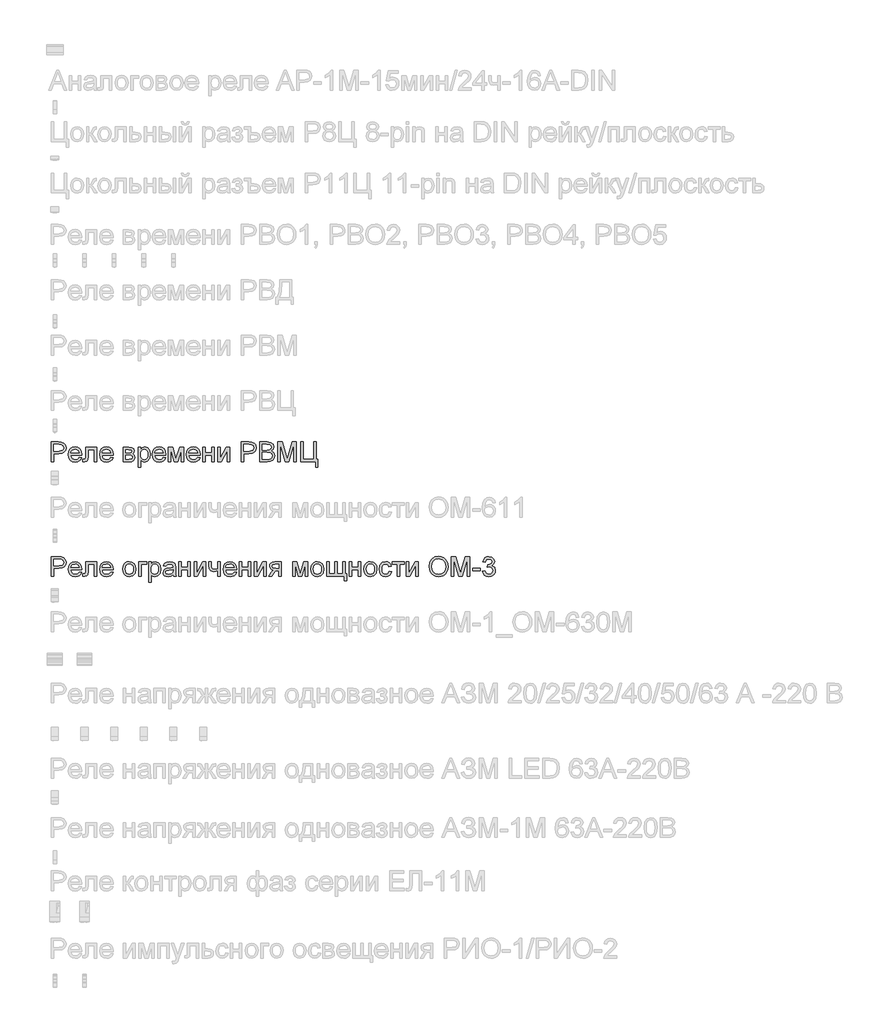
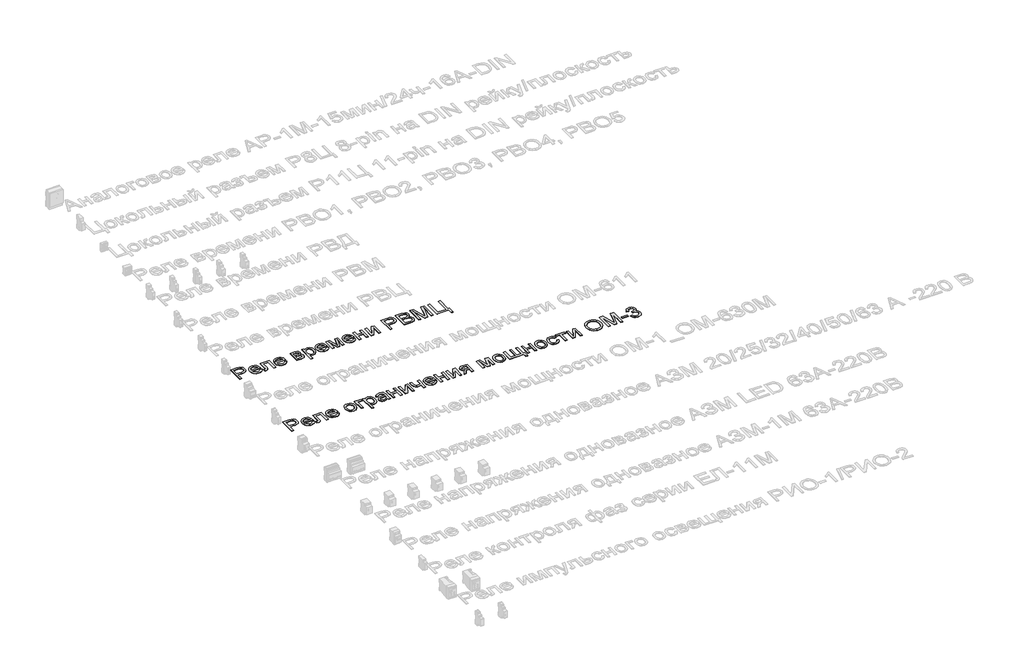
# One storey, part 16 of 34: 2 proxies.
"""IFC4 building model written with IfcOpenShell, lengths in millimetres."""

from ifc_helpers import new_model, si_unit, frame, origin, place, context, project, spatial, polyline, outline, extrude, element, save

model = new_model("IFC4")

# Units and contexts
model_context = context("Model", 3, world=origin())
ifc_project = project(units=[si_unit("LENGTHUNIT", "METRE", prefix="MILLI")], contexts=[model_context])

# Site, building, storey
site = spatial("IfcSite", under=ifc_project)
building = spatial("IfcBuilding", under=site)
storey = spatial("IfcBuildingStorey", under=building, Name="Этаж 01", Elevation=0.0)

# Proxies
placement = place(None, origin())
element("IfcBuildingElementProxy", 1, Name="Надпись на модели 1", ObjectType="Надпись на модели 1", at=placement, inside=storey, context=model_context, shape_type="SweptSolid", body=[
    extrude(outline(polyline([(-19039.0125911, 13496.235284), (-19039.0125911, 13596.6915941), (-19001.7829332, 13596.6915941), (-18986.7733478, 13595.735101), (-18974.5719283, 13591.0384742), (-18966.6624654, 13581.3263895), (-18963.6703585, 13567.6289165), (-18965.6906438, 13555.7892476), (-18971.7514996, 13545.9238788), (-18983.0853308, 13539.2652147), (-19000.9245418, 13537.04566), (-19026.4555523, 13537.04566), (-19026.4555523, 13496.235284), (-19039.0125911, 13496.235284)]), holes=[polyline([(-19026.4555523, 13549.6026988), (-19000.1887779, 13549.6026988), (-18981.6965762, 13554.2134864), (-18977.594692, 13559.7623732), (-18976.2273972, 13567.1874581), (-18979.4524961, 13577.5862559), (-18987.9260447, 13583.2761641), (-19000.4830834, 13584.1345554), (-19026.4555523, 13584.1345554), (-19026.4555523, 13549.6026988)])]), frame((0.0, 0.0, 40.0), z_axis=(0.0, 0.0, 1.0), x_axis=(1.0, 0.0, 0.0)), (0.0, 0.0, 1.0), 2.0),
    extrude(outline(polyline([(-18896.3234279, 13518.2101018), (-18884.0116438, 13516.640472), (-18888.4476875, 13507.3637143), (-18895.5263502, 13500.4291387), (-18905.0882164, 13496.1065253), (-18916.9738705, 13494.6656541), (-18931.7075445, 13497.1519233), (-18943.0444413, 13504.6107308), (-18950.2733225, 13516.5576985), (-18952.6829495, 13532.5084487), (-18950.248797, 13548.9956935), (-18942.9463394, 13561.3258717), (-18931.7627268, 13569.0146054), (-18917.6851091, 13571.5775166), (-18904.0458841, 13569.0207367), (-18893.14738, 13561.3503971), (-18886.0012722, 13549.0447444), (-18883.6192363, 13532.5820251), (-18883.6928127, 13529.1975108), (-18940.1259108, 13529.1975108), (-18937.9523413, 13519.7981258), (-18932.9031609, 13512.8880756), (-18925.6160317, 13508.6390386), (-18916.7286159, 13507.2226929), (-18904.4168318, 13509.8469178), (-18896.3234279, 13518.2101018)]), holes=[polyline([(-18940.1259108, 13541.7545495), (-18896.1762751, 13541.7545495), (-18901.2039957, 13553.1343659), (-18908.5248474, 13557.5489499), (-18917.73416, 13559.0204778), (-18933.1974665, 13554.323851), (-18938.0627059, 13548.8332123), (-18940.1259108, 13541.7545495)])]), frame((0.0, 0.0, 40.0), z_axis=(0.0, 0.0, 1.0), x_axis=(1.0, 0.0, 0.0)), (0.0, 0.0, 1.0), 2.0),
    extrude(outline(polyline([(-18864.7836782, 13570.0078868), (-18808.2770037, 13570.0078868), (-18808.2770037, 13496.3088604), (-18820.8340425, 13496.3088604), (-18820.8340425, 13557.450848), (-18852.2266394, 13557.450848), (-18852.2266394, 13522.2568038), (-18853.072768, 13506.0209451), (-18857.7203439, 13499.1660772), (-18868.7077528, 13496.235284), (-18878.9103468, 13496.8729461), (-18878.9103468, 13508.7923228), (-18873.294015, 13508.7923228), (-18867.6163695, 13509.564875), (-18865.3477639, 13512.0174216), (-18864.7836782, 13522.9680423), (-18864.7836782, 13570.0078868)])), frame((0.0, 0.0, 40.0), z_axis=(0.0, 0.0, 1.0), x_axis=(1.0, 0.0, 0.0)), (0.0, 0.0, 1.0), 2.0),
    extrude(outline(polyline([(-18737.7908134, 13518.2101018), (-18725.4790293, 13516.640472), (-18729.915073, 13507.3637143), (-18736.9937358, 13500.4291387), (-18746.555602, 13496.1065253), (-18758.4412561, 13494.6656541), (-18773.17493, 13497.1519233), (-18784.5118268, 13504.6107308), (-18791.740708, 13516.5576985), (-18794.1503351, 13532.5084487), (-18791.7161826, 13548.9956935), (-18784.4137249, 13561.3258717), (-18773.2301123, 13569.0146054), (-18759.1524946, 13571.5775166), (-18745.5132696, 13569.0207367), (-18734.6147655, 13561.3503971), (-18727.4686578, 13549.0447444), (-18725.0866219, 13532.5820251), (-18725.1601983, 13529.1975108), (-18781.5932963, 13529.1975108), (-18779.4197269, 13519.7981258), (-18774.3705465, 13512.8880756), (-18767.0834173, 13508.6390386), (-18758.1960014, 13507.2226929), (-18745.8842173, 13509.8469178), (-18737.7908134, 13518.2101018)]), holes=[polyline([(-18781.5932963, 13541.7545495), (-18737.6436606, 13541.7545495), (-18742.6713812, 13553.1343659), (-18749.9922329, 13557.5489499), (-18759.2015455, 13559.0204778), (-18774.6648521, 13554.323851), (-18779.5300915, 13548.8332123), (-18781.5932963, 13541.7545495)])]), frame((0.0, 0.0, 40.0), z_axis=(0.0, 0.0, 1.0), x_axis=(1.0, 0.0, 0.0)), (0.0, 0.0, 1.0), 2.0),
    extrude(outline(polyline([(-18673.2888369, 13570.0078868), (-18645.6241109, 13570.0078868), (-18630.45511, 13568.3278923), (-18621.9202477, 13562.1720003), (-18618.3517923, 13551.4421087), (-18620.5100334, 13542.7233055), (-18627.0092819, 13536.5060997), (-18618.5725215, 13529.7002828), (-18615.2125326, 13517.8667453), (-18617.3401168, 13508.2956821), (-18622.3984943, 13501.5573102), (-18630.406059, 13497.5657905), (-18641.3812052, 13496.235284), (-18673.2888369, 13496.235284), (-18673.2888369, 13570.0078868)]), holes=[polyline([(-18660.7317982, 13541.7545495), (-18648.3219122, 13541.7545495), (-18638.08253, 13542.3922117), (-18633.1038603, 13544.9428602), (-18630.9088311, 13549.5536478), (-18634.7593293, 13555.7095399), (-18647.9295047, 13557.450848), (-18660.7317982, 13557.450848), (-18660.7317982, 13541.7545495)]), polyline([(-18660.7317982, 13508.7923228), (-18645.3298053, 13508.7923228), (-18631.6691206, 13511.0609284), (-18627.7695714, 13518.8968149), (-18629.9155497, 13524.9423424), (-18635.507356, 13528.4617468), (-18646.5560786, 13529.1975108), (-18660.7317982, 13529.1975108), (-18660.7317982, 13508.7923228)])]), frame((0.0, 0.0, 40.0), z_axis=(0.0, 0.0, 1.0), x_axis=(1.0, 0.0, 0.0)), (0.0, 0.0, 1.0), 2.0),
    extrude(outline(polyline([(-18599.5162342, 13467.9819468), (-18599.5162342, 13570.0078868), (-18586.9591954, 13570.0078868), (-18586.9591954, 13557.6961027), (-18578.2771803, 13568.1071631), (-18566.5540074, 13571.5775166), (-18550.6369797, 13566.7214743), (-18540.238182, 13553.036264), (-18536.7310403, 13533.6856711), (-18540.6919031, 13513.3417968), (-18552.1943469, 13499.4849083), (-18568.0745863, 13494.6656541), (-18579.0006816, 13497.890753), (-18586.9591954, 13506.0454705), (-18586.9591954, 13467.9819468), (-18599.5162342, 13467.9819468)]), holes=[polyline([(-18586.9591954, 13532.5329742), (-18585.6010977, 13521.2757851), (-18581.5268046, 13513.4031104), (-18575.5149997, 13508.7677973), (-18568.3443664, 13507.2226929), (-18561.0572373, 13508.8229796), (-18554.8921482, 13513.6238396), (-18550.6890964, 13521.7846886), (-18549.2880791, 13533.4649419), (-18550.6553738, 13544.6608173), (-18554.7572581, 13552.6438566), (-18560.759866, 13557.4263225), (-18567.8293317, 13559.0204778), (-18574.9263885, 13557.325155), (-18581.1589226, 13552.2391864), (-18585.5091272, 13543.9219876), (-18586.9591954, 13532.5329742)])]), frame((0.0, 0.0, 40.0), z_axis=(0.0, 0.0, 1.0), x_axis=(1.0, 0.0, 0.0)), (0.0, 0.0, 1.0), 2.0),
    extrude(outline(polyline([(-18470.9537396, 13518.2101018), (-18458.6419555, 13516.640472), (-18463.0779992, 13507.3637143), (-18470.1566619, 13500.4291387), (-18479.7185281, 13496.1065253), (-18491.6041823, 13494.6656541), (-18506.3378562, 13497.1519233), (-18517.674753, 13504.6107308), (-18524.9036342, 13516.5576985), (-18527.3132613, 13532.5084487), (-18524.8791087, 13548.9956935), (-18517.5766511, 13561.3258717), (-18506.3930385, 13569.0146054), (-18492.3154208, 13571.5775166), (-18478.6761958, 13569.0207367), (-18467.7776917, 13561.3503971), (-18460.6315839, 13549.0447444), (-18458.249548, 13532.5820251), (-18458.3231244, 13529.1975108), (-18514.7562225, 13529.1975108), (-18512.582653, 13519.7981258), (-18507.5334726, 13512.8880756), (-18500.2463435, 13508.6390386), (-18491.3589276, 13507.2226929), (-18479.0471435, 13509.8469178), (-18470.9537396, 13518.2101018)]), holes=[polyline([(-18514.7562225, 13541.7545495), (-18470.8065868, 13541.7545495), (-18475.8343074, 13553.1343659), (-18483.1551591, 13557.5489499), (-18492.3644717, 13559.0204778), (-18507.8277782, 13554.323851), (-18512.6930176, 13548.8332123), (-18514.7562225, 13541.7545495)])]), frame((0.0, 0.0, 40.0), z_axis=(0.0, 0.0, 1.0), x_axis=(1.0, 0.0, 0.0)), (0.0, 0.0, 1.0), 2.0),
    extrude(outline(polyline([(-18445.6925093, 13570.0078868), (-18424.0855734, 13570.0078868), (-18407.4327818, 13510.9505638), (-18389.4801404, 13570.0078868), (-18368.7806468, 13570.0078868), (-18368.7806468, 13496.235284), (-18381.3376856, 13496.235284), (-18381.3376856, 13555.6359635), (-18399.3884288, 13496.235284), (-18415.8695422, 13496.235284), (-18433.1354705, 13558.4809176), (-18433.1354705, 13496.235284), (-18445.6925093, 13496.235284), (-18445.6925093, 13570.0078868)])), frame((0.0, 0.0, 40.0), z_axis=(0.0, 0.0, 1.0), x_axis=(1.0, 0.0, 0.0)), (0.0, 0.0, 1.0), 2.0),
    extrude(outline(polyline([(-18298.2944565, 13518.2101018), (-18285.9826724, 13516.640472), (-18290.4187161, 13507.3637143), (-18297.4973789, 13500.4291387), (-18307.0592451, 13496.1065253), (-18318.9448992, 13494.6656541), (-18333.6785731, 13497.1519233), (-18345.0154699, 13504.6107308), (-18352.2443511, 13516.5576985), (-18354.6539782, 13532.5084487), (-18352.2198256, 13548.9956935), (-18344.917368, 13561.3258717), (-18333.7337554, 13569.0146054), (-18319.6561377, 13571.5775166), (-18306.0169127, 13569.0207367), (-18295.1184086, 13561.3503971), (-18287.9723009, 13549.0447444), (-18285.590265, 13532.5820251), (-18285.6638414, 13529.1975108), (-18342.0969394, 13529.1975108), (-18339.92337, 13519.7981258), (-18334.8741896, 13512.8880756), (-18327.5870604, 13508.6390386), (-18318.6996445, 13507.2226929), (-18306.3878604, 13509.8469178), (-18298.2944565, 13518.2101018)]), holes=[polyline([(-18342.0969394, 13541.7545495), (-18298.1473037, 13541.7545495), (-18303.1750243, 13553.1343659), (-18310.495876, 13557.5489499), (-18319.7051886, 13559.0204778), (-18335.1684952, 13554.323851), (-18340.0337346, 13548.8332123), (-18342.0969394, 13541.7545495)])]), frame((0.0, 0.0, 40.0), z_axis=(0.0, 0.0, 1.0), x_axis=(1.0, 0.0, 0.0)), (0.0, 0.0, 1.0), 2.0),
    extrude(outline(polyline([(-18273.0332262, 13570.0078868), (-18260.4761874, 13570.0078868), (-18260.4761874, 13541.7545495), (-18227.5139607, 13541.7545495), (-18227.5139607, 13570.0078868), (-18214.9569219, 13570.0078868), (-18214.9569219, 13496.235284), (-18227.5139607, 13496.235284), (-18227.5139607, 13529.1975108), (-18260.4761874, 13529.1975108), (-18260.4761874, 13496.235284), (-18273.0332262, 13496.235284), (-18273.0332262, 13570.0078868)])), frame((0.0, 0.0, 40.0), z_axis=(0.0, 0.0, 1.0), x_axis=(1.0, 0.0, 0.0)), (0.0, 0.0, 1.0), 2.0),
    extrude(outline(polyline([(-18196.1213637, 13570.0078868), (-18183.564325, 13570.0078868), (-18183.564325, 13513.746467), (-18152.7112883, 13570.0078868), (-18136.4754296, 13570.0078868), (-18136.4754296, 13496.235284), (-18149.0324683, 13496.235284), (-18149.0324683, 13552.1533473), (-18179.6893013, 13496.235284), (-18196.1213637, 13496.235284), (-18196.1213637, 13570.0078868)])), frame((0.0, 0.0, 40.0), z_axis=(0.0, 0.0, 1.0), x_axis=(1.0, 0.0, 0.0)), (0.0, 0.0, 1.0), 2.0),
    extrude(outline(polyline([(-18076.8294954, 13496.235284), (-18076.8294954, 13596.6915941), (-18039.5998375, 13596.6915941), (-18024.5902521, 13595.735101), (-18012.3888326, 13591.0384742), (-18004.4793697, 13581.3263895), (-18001.4872628, 13567.6289165), (-18003.5075481, 13555.7892476), (-18009.568404, 13545.9238788), (-18020.9022351, 13539.2652147), (-18038.7414462, 13537.04566), (-18064.2724567, 13537.04566), (-18064.2724567, 13496.235284), (-18076.8294954, 13496.235284)]), holes=[polyline([(-18064.2724567, 13549.6026988), (-18038.0056822, 13549.6026988), (-18019.5134806, 13554.2134864), (-18015.4115963, 13559.7623732), (-18014.0443016, 13567.1874581), (-18017.2694004, 13577.5862559), (-18025.742949, 13583.2761641), (-18038.2999878, 13584.1345554), (-18064.2724567, 13584.1345554), (-18064.2724567, 13549.6026988)])]), frame((0.0, 0.0, 40.0), z_axis=(0.0, 0.0, 1.0), x_axis=(1.0, 0.0, 0.0)), (0.0, 0.0, 1.0), 2.0),
    extrude(outline(polyline([(-17984.2213345, 13496.235284), (-17984.2213345, 13596.6915941), (-17945.8880306, 13596.6915941), (-17927.1137861, 13593.7362754), (-17916.0282753, 13584.6495902), (-17912.0183616, 13571.7982458), (-17915.3906132, 13560.0628102), (-17925.5809445, 13551.1723286), (-17913.2078467, 13541.8036005), (-17908.8791019, 13526.1808784), (-17911.8344206, 13512.6796092), (-17919.1552723, 13503.0656264), (-17930.0813675, 13497.9643294), (-17946.1823362, 13496.235284), (-17984.2213345, 13496.235284)]), holes=[polyline([(-17971.6642957, 13555.8812181), (-17948.7329847, 13555.8812181), (-17935.3420801, 13556.9603387), (-17927.2854644, 13561.6079145), (-17924.5754004, 13569.7871576), (-17927.1015234, 13577.9786633), (-17934.336536, 13582.8224429), (-17950.4742928, 13584.1345554), (-17971.6642957, 13584.1345554), (-17971.6642957, 13555.8812181)]), polyline([(-17971.6642957, 13508.7923228), (-17945.9125561, 13508.7923228), (-17936.5928789, 13509.2828321), (-17928.7079414, 13512.0174216), (-17923.4840171, 13517.5969652), (-17921.4361407, 13526.0582511), (-17923.8396364, 13535.8193867), (-17931.6264719, 13541.6441849), (-17947.1388294, 13543.3241794), (-17971.6642957, 13543.3241794), (-17971.6642957, 13508.7923228)])]), frame((0.0, 0.0, 40.0), z_axis=(0.0, 0.0, 1.0), x_axis=(1.0, 0.0, 0.0)), (0.0, 0.0, 1.0), 2.0),
    extrude(outline(polyline([(-17891.6131736, 13496.235284), (-17891.6131736, 13596.6915941), (-17870.0062377, 13596.6915941), (-17849.4538969, 13525.8865728), (-17845.3090931, 13511.0977166), (-17840.8209328, 13527.1128461), (-17820.6119485, 13596.6915941), (-17799.0050127, 13596.6915941), (-17799.0050127, 13496.235284), (-17811.5620514, 13496.235284), (-17811.5620514, 13584.1345554), (-17836.7987563, 13496.235284), (-17853.8194299, 13496.235284), (-17879.0561348, 13584.1345554), (-17879.0561348, 13496.235284), (-17891.6131736, 13496.235284)])), frame((0.0, 0.0, 40.0), z_axis=(0.0, 0.0, 1.0), x_axis=(1.0, 0.0, 0.0)), (0.0, 0.0, 1.0), 2.0),
    extrude(outline(polyline([(-17777.0301948, 13596.6915941), (-17764.4731561, 13596.6915941), (-17764.4731561, 13508.7923228), (-17711.1057413, 13508.7923228), (-17711.1057413, 13596.6915941), (-17698.5487025, 13596.6915941), (-17698.5487025, 13508.7923228), (-17689.1309234, 13508.7923228), (-17689.1309234, 13467.9819468), (-17701.6879622, 13467.9819468), (-17701.6879622, 13496.235284), (-17777.0301948, 13496.235284), (-17777.0301948, 13596.6915941)])), frame((0.0, 0.0, 40.0), z_axis=(0.0, 0.0, 1.0), x_axis=(1.0, 0.0, 0.0)), (0.0, 0.0, 1.0), 2.0),
])
element("IfcBuildingElementProxy", 2, Name="Надпись на модели 1", ObjectType="Надпись на модели 1", at=placement, inside=storey, context=model_context, shape_type="SweptSolid", body=[
    extrude(outline(polyline([(-19039.0125911, 12916.235284), (-19039.0125911, 13016.6915941), (-19001.7829332, 13016.6915941), (-18986.7733478, 13015.735101), (-18974.5719283, 13011.0384742), (-18966.6624654, 13001.3263895), (-18963.6703585, 12987.6289165), (-18965.6906438, 12975.7892476), (-18971.7514996, 12965.9238788), (-18983.0853308, 12959.2652147), (-19000.9245418, 12957.04566), (-19026.4555523, 12957.04566), (-19026.4555523, 12916.235284), (-19039.0125911, 12916.235284)]), holes=[polyline([(-19026.4555523, 12969.6026988), (-19000.1887779, 12969.6026988), (-18981.6965762, 12974.2134864), (-18977.594692, 12979.7623732), (-18976.2273972, 12987.1874581), (-18979.4524961, 12997.5862559), (-18987.9260447, 13003.2761641), (-19000.4830834, 13004.1345554), (-19026.4555523, 13004.1345554), (-19026.4555523, 12969.6026988)])]), frame((0.0, 0.0, 40.0), z_axis=(0.0, 0.0, 1.0), x_axis=(1.0, 0.0, 0.0)), (0.0, 0.0, 1.0), 2.0),
    extrude(outline(polyline([(-18896.3234279, 12938.2101018), (-18884.0116438, 12936.640472), (-18888.4476875, 12927.3637143), (-18895.5263502, 12920.4291387), (-18905.0882164, 12916.1065253), (-18916.9738705, 12914.6656541), (-18931.7075445, 12917.1519233), (-18943.0444413, 12924.6107308), (-18950.2733225, 12936.5576985), (-18952.6829495, 12952.5084487), (-18950.248797, 12968.9956935), (-18942.9463394, 12981.3258717), (-18931.7627268, 12989.0146054), (-18917.6851091, 12991.5775166), (-18904.0458841, 12989.0207367), (-18893.14738, 12981.3503971), (-18886.0012722, 12969.0447444), (-18883.6192363, 12952.5820251), (-18883.6928127, 12949.1975108), (-18940.1259108, 12949.1975108), (-18937.9523413, 12939.7981258), (-18932.9031609, 12932.8880756), (-18925.6160317, 12928.6390386), (-18916.7286159, 12927.2226929), (-18904.4168318, 12929.8469178), (-18896.3234279, 12938.2101018)]), holes=[polyline([(-18940.1259108, 12961.7545495), (-18896.1762751, 12961.7545495), (-18901.2039957, 12973.1343659), (-18908.5248474, 12977.5489499), (-18917.73416, 12979.0204778), (-18933.1974665, 12974.323851), (-18938.0627059, 12968.8332123), (-18940.1259108, 12961.7545495)])]), frame((0.0, 0.0, 40.0), z_axis=(0.0, 0.0, 1.0), x_axis=(1.0, 0.0, 0.0)), (0.0, 0.0, 1.0), 2.0),
    extrude(outline(polyline([(-18864.7836782, 12990.0078868), (-18808.2770037, 12990.0078868), (-18808.2770037, 12916.3088604), (-18820.8340425, 12916.3088604), (-18820.8340425, 12977.450848), (-18852.2266394, 12977.450848), (-18852.2266394, 12942.2568038), (-18853.072768, 12926.0209451), (-18857.7203439, 12919.1660772), (-18868.7077528, 12916.235284), (-18878.9103468, 12916.8729461), (-18878.9103468, 12928.7923228), (-18873.294015, 12928.7923228), (-18867.6163695, 12929.564875), (-18865.3477639, 12932.0174216), (-18864.7836782, 12942.9680423), (-18864.7836782, 12990.0078868)])), frame((0.0, 0.0, 40.0), z_axis=(0.0, 0.0, 1.0), x_axis=(1.0, 0.0, 0.0)), (0.0, 0.0, 1.0), 2.0),
    extrude(outline(polyline([(-18737.7908134, 12938.2101018), (-18725.4790293, 12936.640472), (-18729.915073, 12927.3637143), (-18736.9937358, 12920.4291387), (-18746.555602, 12916.1065253), (-18758.4412561, 12914.6656541), (-18773.17493, 12917.1519233), (-18784.5118268, 12924.6107308), (-18791.740708, 12936.5576985), (-18794.1503351, 12952.5084487), (-18791.7161826, 12968.9956935), (-18784.4137249, 12981.3258717), (-18773.2301123, 12989.0146054), (-18759.1524946, 12991.5775166), (-18745.5132696, 12989.0207367), (-18734.6147655, 12981.3503971), (-18727.4686578, 12969.0447444), (-18725.0866219, 12952.5820251), (-18725.1601983, 12949.1975108), (-18781.5932963, 12949.1975108), (-18779.4197269, 12939.7981258), (-18774.3705465, 12932.8880756), (-18767.0834173, 12928.6390386), (-18758.1960014, 12927.2226929), (-18745.8842173, 12929.8469178), (-18737.7908134, 12938.2101018)]), holes=[polyline([(-18781.5932963, 12961.7545495), (-18737.6436606, 12961.7545495), (-18742.6713812, 12973.1343659), (-18749.9922329, 12977.5489499), (-18759.2015455, 12979.0204778), (-18774.6648521, 12974.323851), (-18779.5300915, 12968.8332123), (-18781.5932963, 12961.7545495)])]), frame((0.0, 0.0, 40.0), z_axis=(0.0, 0.0, 1.0), x_axis=(1.0, 0.0, 0.0)), (0.0, 0.0, 1.0), 2.0),
    extrude(outline(polyline([(-18676.4280966, 12953.1215854), (-18673.7119012, 12970.9086798), (-18665.563315, 12983.4105363), (-18655.4956111, 12989.5357715), (-18643.4413444, 12991.5775166), (-18630.2497092, 12989.0912475), (-18619.7129557, 12981.63244), (-18612.8059712, 12969.7897054), (-18610.5036431, 12954.151655), (-18614.5748705, 12931.8089551), (-18626.4329335, 12919.1660772), (-18643.4413444, 12914.6656541), (-18656.7923951, 12917.1427262), (-18667.3168859, 12924.5739426), (-18674.1502939, 12936.6649975), (-18676.4280966, 12953.1215854)]), holes=[polyline([(-18663.8710579, 12953.1461108), (-18662.417924, 12941.7816229), (-18658.0585223, 12933.6851533), (-18651.4979601, 12928.838308), (-18643.4413444, 12927.2226929), (-18635.4215169, 12928.8475051), (-18628.8732174, 12933.7219415), (-18624.5138157, 12941.92571), (-18623.0606819, 12953.5385183), (-18624.5230128, 12964.5719125), (-18628.9100056, 12972.5580175), (-18635.4675022, 12977.4048627), (-18643.4413444, 12979.0204778), (-18651.4979601, 12977.4109941), (-18658.0585223, 12972.5825429), (-18662.417924, 12964.5044674), (-18663.8710579, 12953.1461108)])]), frame((0.0, 0.0, 40.0), z_axis=(0.0, 0.0, 1.0), x_axis=(1.0, 0.0, 0.0)), (0.0, 0.0, 1.0), 2.0),
    extrude(outline(polyline([(-18596.3769745, 12990.0078868), (-18555.5665985, 12990.0078868), (-18555.5665985, 12977.450848), (-18583.8199357, 12977.450848), (-18583.8199357, 12916.235284), (-18596.3769745, 12916.235284), (-18596.3769745, 12990.0078868)])), frame((0.0, 0.0, 40.0), z_axis=(0.0, 0.0, 1.0), x_axis=(1.0, 0.0, 0.0)), (0.0, 0.0, 1.0), 2.0),
    extrude(outline(polyline([(-18546.1488194, 12887.9819468), (-18546.1488194, 12990.0078868), (-18533.5917806, 12990.0078868), (-18533.5917806, 12977.6961027), (-18524.9097656, 12988.1071631), (-18513.1865926, 12991.5775166), (-18497.269565, 12986.7214743), (-18486.8707672, 12973.036264), (-18483.3636256, 12953.6856711), (-18487.3244884, 12933.3417968), (-18498.8269321, 12919.4849083), (-18514.7071716, 12914.6656541), (-18525.6332668, 12917.890753), (-18533.5917806, 12926.0454705), (-18533.5917806, 12887.9819468), (-18546.1488194, 12887.9819468)]), holes=[polyline([(-18533.5917806, 12952.5329742), (-18532.2336829, 12941.2757851), (-18528.1593898, 12933.4031104), (-18522.1475849, 12928.7677973), (-18514.9769517, 12927.2226929), (-18507.6898225, 12928.8229796), (-18501.5247334, 12933.6238396), (-18497.3216816, 12941.7846886), (-18495.9206643, 12953.4649419), (-18497.2879591, 12964.6608173), (-18501.3898433, 12972.6438566), (-18507.3924512, 12977.4263225), (-18514.4619169, 12979.0204778), (-18521.5589737, 12977.325155), (-18527.7915078, 12972.2391864), (-18532.1417124, 12963.9219876), (-18533.5917806, 12952.5329742)])]), frame((0.0, 0.0, 40.0), z_axis=(0.0, 0.0, 1.0), x_axis=(1.0, 0.0, 0.0)), (0.0, 0.0, 1.0), 2.0),
    extrude(outline(polyline([(-18422.1480616, 12925.6530631), (-18434.3249556, 12917.1427262), (-18447.7771739, 12914.6656541), (-18458.2710078, 12916.1555762), (-18466.0118581, 12920.6253425), (-18470.785127, 12927.4127653), (-18472.3762166, 12935.8556571), (-18469.9727209, 12945.7884709), (-18463.6574134, 12952.998958), (-18454.8650337, 12957.1192364), (-18444.0002521, 12959.0076973), (-18422.221638, 12963.3241794), (-18422.1480616, 12966.1200825), (-18425.6061523, 12975.3907088), (-18439.4875663, 12979.0204778), (-18452.1917578, 12976.6047194), (-18458.249548, 12968.0330689), (-18470.8065868, 12969.6026988), (-18465.374196, 12981.8654319), (-18454.435838, 12989.0513936), (-18437.8688855, 12991.5775166), (-18422.6508336, 12989.3456992), (-18414.0546577, 12983.7416301), (-18410.2041595, 12975.2190306), (-18409.5910228, 12964.2316216), (-18409.5910228, 12948.6088996), (-18408.9533607, 12926.7934973), (-18406.4517631, 12916.235284), (-18419.0088019, 12916.235284), (-18422.1480616, 12925.6530631)]), holes=[polyline([(-18422.1480616, 12950.7671406), (-18442.4060968, 12946.9166424), (-18453.2095647, 12944.8810287), (-18458.1023952, 12941.5700907), (-18459.8191779, 12936.7385739), (-18456.0790443, 12929.9450197), (-18445.1038981, 12927.2226929), (-18432.3997065, 12930.2270625), (-18424.2082007, 12937.4988633), (-18422.221638, 12947.210948), (-18422.1480616, 12950.7671406)])]), frame((0.0, 0.0, 40.0), z_axis=(0.0, 0.0, 1.0), x_axis=(1.0, 0.0, 0.0)), (0.0, 0.0, 1.0), 2.0),
    extrude(outline(polyline([(-18392.3250945, 12990.0078868), (-18379.7680557, 12990.0078868), (-18379.7680557, 12961.7545495), (-18346.805829, 12961.7545495), (-18346.805829, 12990.0078868), (-18334.2487902, 12990.0078868), (-18334.2487902, 12916.235284), (-18346.805829, 12916.235284), (-18346.805829, 12949.1975108), (-18379.7680557, 12949.1975108), (-18379.7680557, 12916.235284), (-18392.3250945, 12916.235284), (-18392.3250945, 12990.0078868)])), frame((0.0, 0.0, 40.0), z_axis=(0.0, 0.0, 1.0), x_axis=(1.0, 0.0, 0.0)), (0.0, 0.0, 1.0), 2.0),
    extrude(outline(polyline([(-18315.413232, 12990.0078868), (-18302.8561933, 12990.0078868), (-18302.8561933, 12933.746467), (-18272.0031566, 12990.0078868), (-18255.7672979, 12990.0078868), (-18255.7672979, 12916.235284), (-18268.3243366, 12916.235284), (-18268.3243366, 12972.1533473), (-18298.9811696, 12916.235284), (-18315.413232, 12916.235284), (-18315.413232, 12990.0078868)])), frame((0.0, 0.0, 40.0), z_axis=(0.0, 0.0, 1.0), x_axis=(1.0, 0.0, 0.0)), (0.0, 0.0, 1.0), 2.0),
    extrude(outline(polyline([(-18241.6406293, 12990.0078868), (-18229.0835905, 12990.0078868), (-18229.0835905, 12975.8566927), (-18228.0657836, 12962.5884154), (-18223.1729531, 12955.4024537), (-18213.4608684, 12952.3367705), (-18196.1213637, 12956.1382177), (-18196.1213637, 12990.0078868), (-18183.564325, 12990.0078868), (-18183.564325, 12916.235284), (-18196.1213637, 12916.235284), (-18196.1213637, 12944.0962138), (-18216.8208573, 12939.7797317), (-18231.0578905, 12944.2801548), (-18239.4333373, 12955.3043519), (-18241.6406293, 12969.6517497), (-18241.6406293, 12990.0078868)])), frame((0.0, 0.0, 40.0), z_axis=(0.0, 0.0, 1.0), x_axis=(1.0, 0.0, 0.0)), (0.0, 0.0, 1.0), 2.0),
    extrude(outline(polyline([(-18113.0781347, 12938.2101018), (-18100.7663506, 12936.640472), (-18105.2023943, 12927.3637143), (-18112.281057, 12920.4291387), (-18121.8429232, 12916.1065253), (-18133.7285773, 12914.6656541), (-18148.4622513, 12917.1519233), (-18159.7991481, 12924.6107308), (-18167.0280293, 12936.5576985), (-18169.4376563, 12952.5084487), (-18167.0035038, 12968.9956935), (-18159.7010462, 12981.3258717), (-18148.5174336, 12989.0146054), (-18134.4398159, 12991.5775166), (-18120.8005909, 12989.0207367), (-18109.9020868, 12981.3503971), (-18102.755979, 12969.0447444), (-18100.3739431, 12952.5820251), (-18100.4475195, 12949.1975108), (-18156.8806176, 12949.1975108), (-18154.7070481, 12939.7981258), (-18149.6578677, 12932.8880756), (-18142.3707385, 12928.6390386), (-18133.4833227, 12927.2226929), (-18121.1715386, 12929.8469178), (-18113.0781347, 12938.2101018)]), holes=[polyline([(-18156.8806176, 12961.7545495), (-18112.9309819, 12961.7545495), (-18117.9587025, 12973.1343659), (-18125.2795542, 12977.5489499), (-18134.4888668, 12979.0204778), (-18149.9521733, 12974.323851), (-18154.8174127, 12968.8332123), (-18156.8806176, 12961.7545495)])]), frame((0.0, 0.0, 40.0), z_axis=(0.0, 0.0, 1.0), x_axis=(1.0, 0.0, 0.0)), (0.0, 0.0, 1.0), 2.0),
    extrude(outline(polyline([(-18087.8169043, 12990.0078868), (-18075.2598656, 12990.0078868), (-18075.2598656, 12961.7545495), (-18042.2976388, 12961.7545495), (-18042.2976388, 12990.0078868), (-18029.7406, 12990.0078868), (-18029.7406, 12916.235284), (-18042.2976388, 12916.235284), (-18042.2976388, 12949.1975108), (-18075.2598656, 12949.1975108), (-18075.2598656, 12916.235284), (-18087.8169043, 12916.235284), (-18087.8169043, 12990.0078868)])), frame((0.0, 0.0, 40.0), z_axis=(0.0, 0.0, 1.0), x_axis=(1.0, 0.0, 0.0)), (0.0, 0.0, 1.0), 2.0),
    extrude(outline(polyline([(-18010.9050419, 12990.0078868), (-17998.3480031, 12990.0078868), (-17998.3480031, 12933.746467), (-17967.4949665, 12990.0078868), (-17951.2591077, 12990.0078868), (-17951.2591077, 12916.235284), (-17963.8161465, 12916.235284), (-17963.8161465, 12972.1533473), (-17994.4729794, 12916.235284), (-18010.9050419, 12916.235284), (-18010.9050419, 12990.0078868)])), frame((0.0, 0.0, 40.0), z_axis=(0.0, 0.0, 1.0), x_axis=(1.0, 0.0, 0.0)), (0.0, 0.0, 1.0), 2.0),
    extrude(outline(polyline([(-17875.9168751, 12990.0078868), (-17875.9168751, 12916.235284), (-17888.4739139, 12916.235284), (-17888.4739139, 12944.4886212), (-17895.316519, 12944.4886212), (-17904.6361962, 12942.8944659), (-17913.3917877, 12932.1768371), (-17923.398178, 12916.235284), (-17937.917254, 12916.235284), (-17925.3111643, 12936.3952173), (-17914.618061, 12946.843066), (-17923.2019742, 12949.4734223), (-17929.235239, 12954.470486), (-17933.9931794, 12968.6952565), (-17932.3683673, 12977.2914325), (-17927.4939309, 12984.0972494), (-17919.5415484, 12988.5302274), (-17908.6828982, 12990.0078868), (-17875.9168751, 12990.0078868)]), holes=[polyline([(-17888.4739139, 12977.450848), (-17905.0286037, 12977.450848), (-17918.431771, 12974.5445802), (-17921.4361407, 12967.7387633), (-17917.009294, 12959.6330967), (-17901.3252583, 12957.04566), (-17888.4739139, 12957.04566), (-17888.4739139, 12977.450848)])]), frame((0.0, 0.0, 40.0), z_axis=(0.0, 0.0, 1.0), x_axis=(1.0, 0.0, 0.0)), (0.0, 0.0, 1.0), 2.0),
    extrude(outline(polyline([(-17817.8405708, 12990.0078868), (-17796.233635, 12990.0078868), (-17779.5808433, 12930.9505638), (-17761.628202, 12990.0078868), (-17740.9287084, 12990.0078868), (-17740.9287084, 12916.235284), (-17753.4857471, 12916.235284), (-17753.4857471, 12975.6359635), (-17771.5364904, 12916.235284), (-17788.0176037, 12916.235284), (-17805.2835321, 12978.4809176), (-17805.2835321, 12916.235284), (-17817.8405708, 12916.235284), (-17817.8405708, 12990.0078868)])), frame((0.0, 0.0, 40.0), z_axis=(0.0, 0.0, 1.0), x_axis=(1.0, 0.0, 0.0)), (0.0, 0.0, 1.0), 2.0),
    extrude(outline(polyline([(-17725.2324099, 12953.1215854), (-17722.5162145, 12970.9086798), (-17714.3676283, 12983.4105363), (-17704.2999244, 12989.5357715), (-17692.2456577, 12991.5775166), (-17679.0540225, 12989.0912475), (-17668.517269, 12981.63244), (-17661.6102845, 12969.7897054), (-17659.3079564, 12954.151655), (-17663.3791838, 12931.8089551), (-17675.2372468, 12919.1660772), (-17692.2456577, 12914.6656541), (-17705.5967084, 12917.1427262), (-17716.1211992, 12924.5739426), (-17722.9546072, 12936.6649975), (-17725.2324099, 12953.1215854)]), holes=[polyline([(-17712.6753711, 12953.1461108), (-17711.2222373, 12941.7816229), (-17706.8628356, 12933.6851533), (-17700.3022734, 12928.838308), (-17692.2456577, 12927.2226929), (-17684.2258302, 12928.8475051), (-17677.6775307, 12933.7219415), (-17673.318129, 12941.92571), (-17671.8649951, 12953.5385183), (-17673.3273261, 12964.5719125), (-17677.7143189, 12972.5580175), (-17684.2718154, 12977.4048627), (-17692.2456577, 12979.0204778), (-17700.3022734, 12977.4109941), (-17706.8628356, 12972.5825429), (-17711.2222373, 12964.5044674), (-17712.6753711, 12953.1461108)])]), frame((0.0, 0.0, 40.0), z_axis=(0.0, 0.0, 1.0), x_axis=(1.0, 0.0, 0.0)), (0.0, 0.0, 1.0), 2.0),
    extrude(outline(polyline([(-17645.1812878, 12990.0078868), (-17632.624249, 12990.0078868), (-17632.624249, 12928.7923228), (-17604.3709118, 12928.7923228), (-17604.3709118, 12990.0078868), (-17591.813873, 12990.0078868), (-17591.813873, 12928.7923228), (-17563.5605358, 12928.7923228), (-17563.5605358, 12990.0078868), (-17551.003497, 12990.0078868), (-17551.003497, 12928.7923228), (-17543.1553478, 12928.7923228), (-17543.1553478, 12895.830096), (-17555.7123865, 12895.830096), (-17555.7123865, 12916.235284), (-17645.1812878, 12916.235284), (-17645.1812878, 12990.0078868)])), frame((0.0, 0.0, 40.0), z_axis=(0.0, 0.0, 1.0), x_axis=(1.0, 0.0, 0.0)), (0.0, 0.0, 1.0), 2.0),
    extrude(outline(polyline([(-17530.598309, 12990.0078868), (-17518.0412702, 12990.0078868), (-17518.0412702, 12961.7545495), (-17485.0790435, 12961.7545495), (-17485.0790435, 12990.0078868), (-17472.5220047, 12990.0078868), (-17472.5220047, 12916.235284), (-17485.0790435, 12916.235284), (-17485.0790435, 12949.1975108), (-17518.0412702, 12949.1975108), (-17518.0412702, 12916.235284), (-17530.598309, 12916.235284), (-17530.598309, 12990.0078868)])), frame((0.0, 0.0, 40.0), z_axis=(0.0, 0.0, 1.0), x_axis=(1.0, 0.0, 0.0)), (0.0, 0.0, 1.0), 2.0),
    extrude(outline(polyline([(-17456.8257062, 12953.1215854), (-17454.1095108, 12970.9086798), (-17445.9609246, 12983.4105363), (-17435.8932207, 12989.5357715), (-17423.838954, 12991.5775166), (-17410.6473188, 12989.0912475), (-17400.1105653, 12981.63244), (-17393.2035808, 12969.7897054), (-17390.9012527, 12954.151655), (-17394.9724801, 12931.8089551), (-17406.8305431, 12919.1660772), (-17423.838954, 12914.6656541), (-17437.1900047, 12917.1427262), (-17447.7144955, 12924.5739426), (-17454.5479035, 12936.6649975), (-17456.8257062, 12953.1215854)]), holes=[polyline([(-17444.2686675, 12953.1461108), (-17442.8155336, 12941.7816229), (-17438.4561319, 12933.6851533), (-17431.8955697, 12928.838308), (-17423.838954, 12927.2226929), (-17415.8191265, 12928.8475051), (-17409.270827, 12933.7219415), (-17404.9114253, 12941.92571), (-17403.4582915, 12953.5385183), (-17404.9206224, 12964.5719125), (-17409.3076152, 12972.5580175), (-17415.8651117, 12977.4048627), (-17423.838954, 12979.0204778), (-17431.8955697, 12977.4109941), (-17438.4561319, 12972.5825429), (-17442.8155336, 12964.5044674), (-17444.2686675, 12953.1461108)])]), frame((0.0, 0.0, 40.0), z_axis=(0.0, 0.0, 1.0), x_axis=(1.0, 0.0, 0.0)), (0.0, 0.0, 1.0), 2.0),
    extrude(outline(polyline([(-17329.6856887, 12942.9189914), (-17317.1286499, 12941.3493615), (-17320.6296602, 12930.1810773), (-17327.2086166, 12921.7412512), (-17336.2462509, 12916.4345534), (-17347.1232953, 12914.6656541), (-17360.4804774, 12917.1335292), (-17370.9252603, 12924.5371544), (-17377.6666979, 12936.5515672), (-17379.9138438, 12952.8518052), (-17376.0756083, 12973.7107144), (-17364.3769608, 12987.1138817), (-17347.2949735, 12991.5775166), (-17336.6846436, 12990.044675), (-17328.201898, 12985.44615), (-17322.1165166, 12978.0271964), (-17318.6982798, 12968.0330689), (-17331.2553185, 12966.4634391), (-17337.0801168, 12975.8689554), (-17347.1968717, 12979.0204778), (-17355.3117353, 12977.4692421), (-17361.7527359, 12972.8155349), (-17365.9557877, 12964.8079701), (-17367.356805, 12953.1951618), (-17365.9864446, 12941.4260036), (-17361.8753633, 12933.3908477), (-17355.5508586, 12928.7647316), (-17347.5402282, 12927.2226929), (-17335.7066907, 12931.0731911), (-17329.6856887, 12942.9189914)])), frame((0.0, 0.0, 40.0), z_axis=(0.0, 0.0, 1.0), x_axis=(1.0, 0.0, 0.0)), (0.0, 0.0, 1.0), 2.0),
    extrude(outline(polyline([(-17312.4197604, 12990.0078868), (-17252.7738262, 12990.0078868), (-17252.7738262, 12977.450848), (-17276.3182739, 12977.450848), (-17276.3182739, 12916.235284), (-17288.8753127, 12916.235284), (-17288.8753127, 12977.450848), (-17312.4197604, 12977.450848), (-17312.4197604, 12990.0078868)])), frame((0.0, 0.0, 40.0), z_axis=(0.0, 0.0, 1.0), x_axis=(1.0, 0.0, 0.0)), (0.0, 0.0, 1.0), 2.0),
    extrude(outline(polyline([(-17241.7864173, 12990.0078868), (-17229.2293785, 12990.0078868), (-17229.2293785, 12933.746467), (-17198.3763419, 12990.0078868), (-17182.1404832, 12990.0078868), (-17182.1404832, 12916.235284), (-17194.6975219, 12916.235284), (-17194.6975219, 12972.1533473), (-17225.3543549, 12916.235284), (-17241.7864173, 12916.235284), (-17241.7864173, 12990.0078868)])), frame((0.0, 0.0, 40.0), z_axis=(0.0, 0.0, 1.0), x_axis=(1.0, 0.0, 0.0)), (0.0, 0.0, 1.0), 2.0),
    extrude(outline(polyline([(-17127.2034385, 12965.1390639), (-17123.8557124, 12987.353005), (-17113.8125339, 13004.1590808), (-17098.4779861, 13014.7356882), (-17079.2561518, 13018.261224), (-17066.079845, 13016.605755), (-17054.2647016, 13011.6393481), (-17044.4545151, 13003.7114911), (-17037.2930789, 12993.1716719), (-17032.9152832, 12980.528794), (-17031.4560179, 12966.2917608), (-17032.9919253, 12951.8646552), (-17037.5996473, 12939.0439677), (-17045.0247322, 12928.4857544), (-17055.0127284, 12920.8460717), (-17066.7267042, 12916.2107585), (-17079.3297282, 12914.6656541), (-17092.7083701, 12916.3732397), (-17104.5909586, 12921.4959965), (-17114.3766196, 12929.5710063), (-17121.4644794, 12940.1353509), (-17127.2034385, 12965.1390639)]), holes=[polyline([(-17114.6463998, 12965.0164366), (-17112.1356052, 12949.301744), (-17104.6032213, 12937.327185), (-17093.2816529, 12929.7488159), (-17079.4033046, 12927.2226929), (-17065.3226213, 12929.7733414), (-17053.9826588, 12937.4252869), (-17046.5054572, 12949.7677279), (-17044.0130567, 12966.3898627), (-17048.2804878, 12987.1138817), (-17060.7516875, 13000.8358802), (-17079.1825754, 13005.7041852), (-17092.689976, 13003.3589375), (-17104.1740256, 12996.3231943), (-17112.0283062, 12983.8060095), (-17114.6463998, 12965.0164366)])]), frame((0.0, 0.0, 40.0), z_axis=(0.0, 0.0, 1.0), x_axis=(1.0, 0.0, 0.0)), (0.0, 0.0, 1.0), 2.0),
    extrude(outline(polyline([(-17014.1900896, 12916.235284), (-17014.1900896, 13016.6915941), (-16992.5831538, 13016.6915941), (-16972.030813, 12945.8865728), (-16967.8860092, 12931.0977166), (-16963.3978488, 12947.1128461), (-16943.1888646, 13016.6915941), (-16921.5819287, 13016.6915941), (-16921.5819287, 12916.235284), (-16934.1389675, 12916.235284), (-16934.1389675, 13004.1345554), (-16959.3756723, 12916.235284), (-16976.396346, 12916.235284), (-17001.6330509, 13004.1345554), (-17001.6330509, 12916.235284), (-17014.1900896, 12916.235284)])), frame((0.0, 0.0, 40.0), z_axis=(0.0, 0.0, 1.0), x_axis=(1.0, 0.0, 0.0)), (0.0, 0.0, 1.0), 2.0),
    extrude(outline(polyline([(-16907.4552601, 12946.0582511), (-16907.4552601, 12958.6152898), (-16868.2145139, 12958.6152898), (-16868.2145139, 12946.0582511), (-16907.4552601, 12946.0582511)])), frame((0.0, 0.0, 40.0), z_axis=(0.0, 0.0, 1.0), x_axis=(1.0, 0.0, 0.0)), (0.0, 0.0, 1.0), 2.0),
    extrude(outline(polyline([(-16857.227105, 12942.9189914), (-16844.6700662, 12944.4886212), (-16837.741622, 12931.2693949), (-16824.779913, 12927.2226929), (-16816.1714744, 12928.6145131), (-16809.525073, 12932.7899738), (-16803.8596902, 12946.5732859), (-16809.476022, 12959.5595203), (-16823.7498435, 12964.6976055), (-16832.5544859, 12963.3241794), (-16831.1565343, 12975.8812181), (-16829.1454461, 12975.7340653), (-16814.8961501, 12979.3393089), (-16810.1504724, 12983.9133084), (-16808.5685798, 12990.4248197), (-16813.154842, 13000.247269), (-16824.9761168, 13004.1345554), (-16836.9445443, 13000.2104808), (-16843.1004364, 12988.4382569), (-16855.6574752, 12990.0078868), (-16851.9602611, 13001.2834699), (-16845.3813048, 13009.7018362), (-16836.3804586, 13014.9441547), (-16825.4175752, 13016.6915941), (-16810.2730997, 13013.2457661), (-16799.6780982, 13003.827987), (-16796.011541, 12991.1605837), (-16799.4941572, 12979.5845636), (-16809.7948531, 12971.2704305), (-16796.1096429, 12962.6865173), (-16791.3026515, 12946.3525567), (-16793.7061472, 12934.114349), (-16800.9166343, 12923.8872295), (-16811.79981, 12916.971048), (-16825.2213714, 12914.6656541), (-16837.3614773, 12916.6338228), (-16847.2452402, 12922.5383288), (-16854.1185022, 12931.5698318), (-16857.227105, 12942.9189914)])), frame((0.0, 0.0, 40.0), z_axis=(0.0, 0.0, 1.0), x_axis=(1.0, 0.0, 0.0)), (0.0, 0.0, 1.0), 2.0),
])

save(model, "model.ifc")
